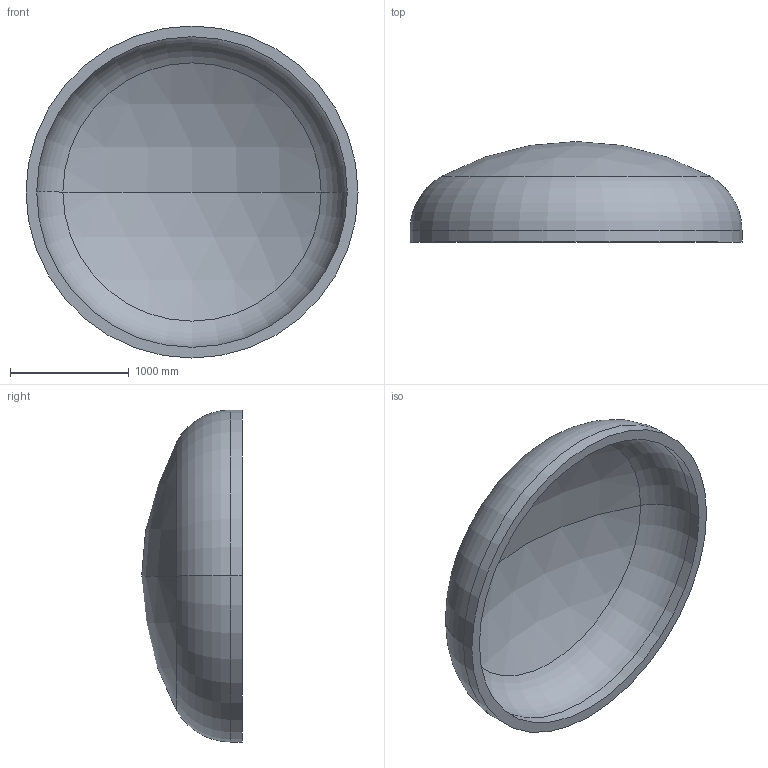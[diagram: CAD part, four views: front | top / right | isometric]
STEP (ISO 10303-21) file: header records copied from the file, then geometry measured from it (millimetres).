
FILE_DESCRIPTION (( 'STEP AP203' ), '1' );
FILE_NAME ('DIN 28013 Korbbogenform_-_Boden DIN 28013 - 2800 x 100 - I - s=90.step', '2016-07-01T17:15:04', ( '' ), ( '' ), 'SwSTEP 2.0', 'SolidWorks 2013', '' );
FILE_SCHEMA (( 'CONFIG_CONTROL_DESIGN' ));
Length unit declared in the file: millimetre
Products named in the file (1): DIN 28013 Korbbogenform_-_Boden DIN 28013 - 2800 x 100 - I - s=90
Bounding box: 2800 x 848.32 x 2800 mm (x, y, z)
Volume: 812229922.6 mm3; surface area: 18832747.1 mm2
Topology: 1 solids, 1 shells, 13 faces, 24 edges, 14 vertices
Faces by surface type: torus 4, cylinder 4, sphere 4, plane 1
Entity records: 407 total; most frequent: DIRECTION 72, CARTESIAN_POINT 52, ORIENTED_EDGE 48, AXIS2_PLACEMENT_3D 34, EDGE_CURVE 24, CIRCLE 20, VERTEX_POINT 14, EDGE_LOOP 14
